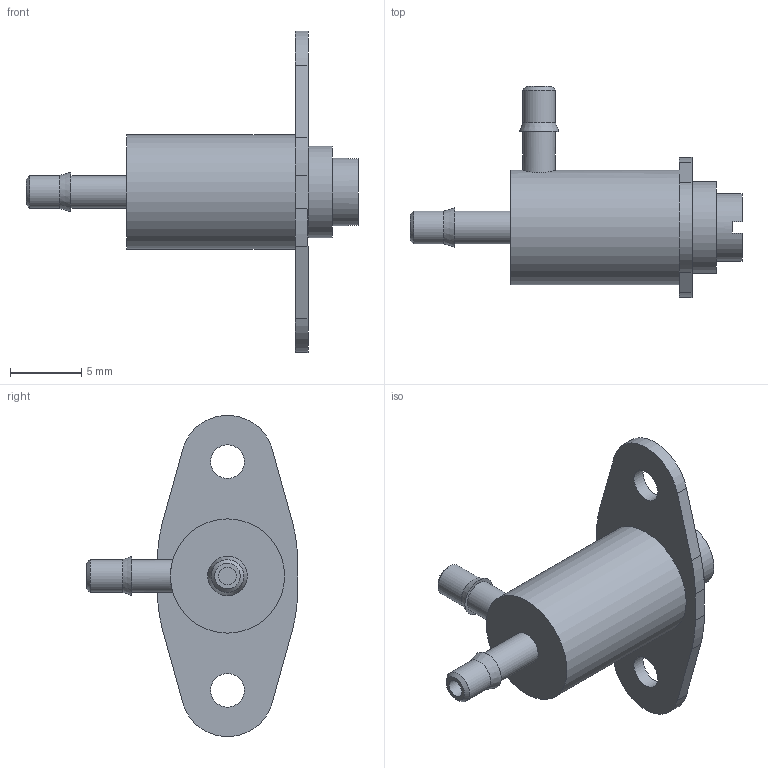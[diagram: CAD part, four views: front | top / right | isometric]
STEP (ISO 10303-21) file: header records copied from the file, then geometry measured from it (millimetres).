
FILE_DESCRIPTION(/* description */ ('SolidWorks IGES file using NURBS representation for surfaces '),/* implementation_level */ '2;1');
FILE_NAME(/* name */ 'K:\Normteile INVENTOR\Air-Logic\Needle Valves\F-2822-31-B80.IGS.ipt.stp',/* time_stamp */ '2020-05-27T10:40:54+02:00',/* author */ ('amarsh'),/* organization */ (''),/* preprocessor_version */ 'ST-DEVELOPER v18',/* originating_system */ 'Autodesk Inventor 2020',/* authorisation */ '');
FILE_SCHEMA (('AUTOMOTIVE_DESIGN { 1 0 10303 214 3 1 1 }'));
Length unit declared in the file: millimetre
Products named in the file (1): F-2822-31-B80.IGS
Bounding box: 23.24 x 14.77 x 22.48 mm (x, y, z)
Volume: 862.6 mm3; surface area: 934.6 mm2
Topology: 2 solids, 2 shells, 43 faces, 118 edges, 87 vertices
Faces by surface type: plane 21, cylinder 18, cone 4
Full cylindrical faces by diameter (mm): 1.25 x2, 2.29 x4, 2.36 x2, 4.7 x1, 6.4 x1, 8 x1
Entity records: 1557 total; most frequent: CARTESIAN_POINT 318, DIRECTION 269, ORIENTED_EDGE 236, EDGE_CURVE 118, AXIS2_PLACEMENT_3D 111, VERTEX_POINT 87, CIRCLE 67, EDGE_LOOP 55
